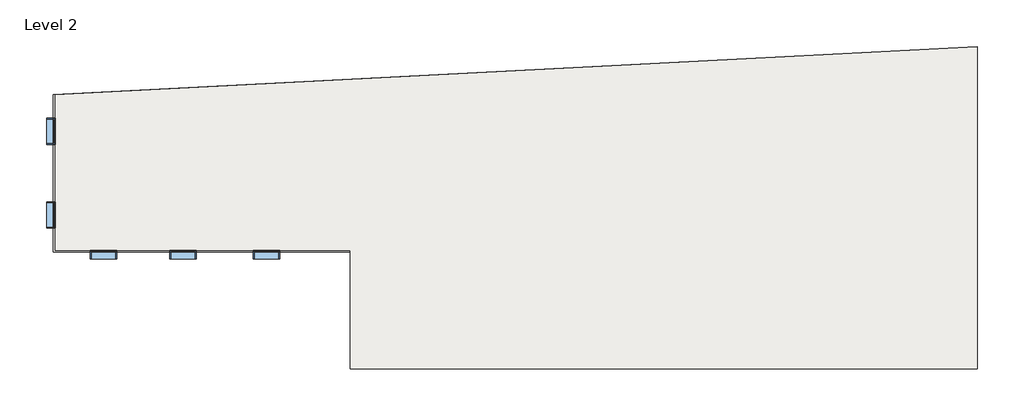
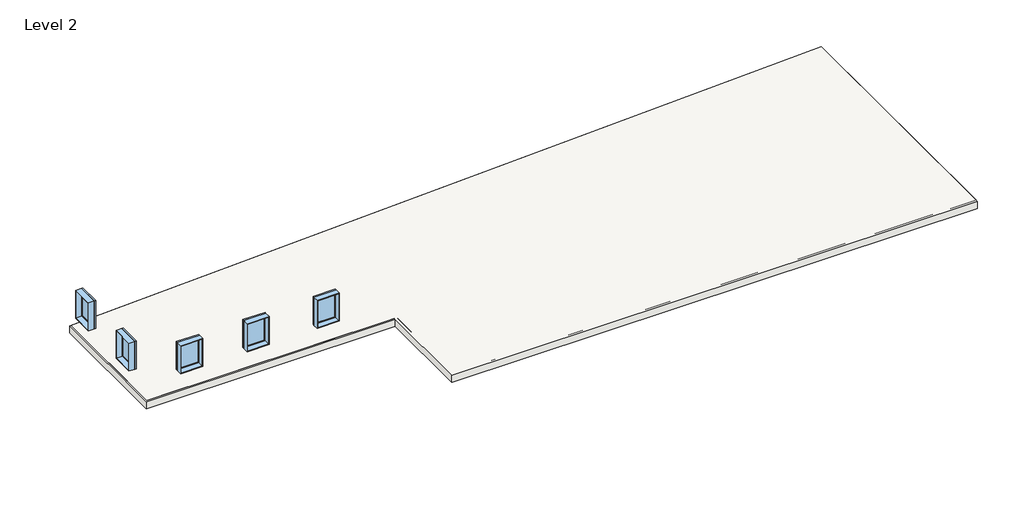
# One storey: 5 windows, 3 slabs.
"""IFC4 building model written with IfcOpenShell, lengths in millimetres."""

from ifc_helpers import new_model, si_unit, frame, origin, place, context, project, spatial, polyline, outline, extrude, transform, mapped, element, save
from components import window_9bb1ed39

model = new_model("IFC4")

# Units and contexts
model_context = context("Model", 3, world=origin())
ifc_project = project(units=[si_unit("LENGTHUNIT", "METRE", prefix="MILLI")], contexts=[model_context])

# Site, building, storey
site = spatial("IfcSite", under=ifc_project)
building = spatial("IfcBuilding", under=site)
storey = spatial("IfcBuildingStorey", under=building, Name="Level 2", Elevation=3048.0)

# Slabs
placement = place(None, origin())
element("IfcSlab", 1, ObjectType="Generic - 12\"", at=placement, inside=storey, context=model_context, shape_type="SweptSolid", body=[
    extrude(outline(polyline([(-11412.9436041, 14193.4725808), (20494.2188959, 15856.8791566), (20494.2188959, 4686.3138106), (-1197.3811041, 4686.3138106), (-1197.3811041, 8796.3513106), (-11412.9436041, 8796.3513106), (-11412.9436041, 14193.4725808)])), frame((0.0, 0.0, 2743.2), z_axis=(0.0, 0.0, 1.0), x_axis=(1.0, 0.0, 0.0)), (0.0, 0.0, 1.0), 304.8),
])
element("IfcSlab", 2, ObjectType="Generic - 12\"", at=placement, inside=storey, context=model_context, shape_type="SweptSolid", body=[
    extrude(outline(polyline([(-11474.8561041, 14190.2449149), (20494.2188959, 15856.8791566), (20494.2188959, 4787.9138106), (-1095.7811041, 4787.9138106), (-1095.7811041, 8734.4388106), (-11474.8561041, 8734.4388106), (-11474.8561041, 14190.2449149)])), frame((0.0, 0.0, 2743.2), z_axis=(0.0, 0.0, 1.0), x_axis=(1.0, 0.0, 0.0)), (0.0, 0.0, 1.0), 304.8),
])
element("IfcSlab", 3, ObjectType="Generic - 12\"", at=placement, inside=storey, context=model_context, shape_type="SweptSolid", body=[
    extrude(outline(polyline([(-11474.8561041, 14190.2449149), (20494.2188959, 15856.8791566), (20494.2188959, 4787.9138106), (-1095.7811041, 4787.9138106), (-1095.7811041, 8734.4388106), (-11474.8561041, 8734.4388106), (-11474.8561041, 14190.2449149)])), frame((0.0, 0.0, 2743.2), z_axis=(0.0, 0.0, 1.0), x_axis=(1.0, 0.0, 0.0)), (0.0, 0.0, 1.0), 304.8),
])

# Windows
window_shape = window_9bb1ed39(model_context)
element("IfcWindow", 4, ObjectType="Fixed : 36\" x 48\"", at=placement, inside=storey, context=model_context, shape_type="MappedRepresentation", body=[
    mapped(window_shape, transform((-9693.6811041, 8648.7138106, 3048.0), x_axis=(1.0, 0.0, 0.0), y_axis=(0.0, 1.0, 0.0), z_axis=(0.0, 0.0, 1.0))),
])
element("IfcWindow", 5, ObjectType="Fixed : 36\" x 48\"", at=placement, inside=storey, context=model_context, shape_type="MappedRepresentation", body=[
    mapped(window_shape, transform((-6950.4811041, 8648.7138106, 3048.0), x_axis=(1.0, 0.0, 0.0), y_axis=(0.0, 1.0, 0.0), z_axis=(0.0, 0.0, 1.0))),
])
element("IfcWindow", 6, ObjectType="Fixed : 36\" x 48\"", at=placement, inside=storey, context=model_context, shape_type="MappedRepresentation", body=[
    mapped(window_shape, transform((-4054.8811041, 8648.7138106, 3048.0), x_axis=(1.0, 0.0, 0.0), y_axis=(0.0, 1.0, 0.0), z_axis=(0.0, 0.0, 1.0))),
])
element("IfcWindow", 7, ObjectType="Fixed : 36\" x 48\"", at=placement, inside=storey, context=model_context, shape_type="MappedRepresentation", body=[
    mapped(window_shape, transform((-11560.5811041, 12877.8138106, 3048.0), x_axis=(0.0, -1.0, 0.0), y_axis=(1.0, 0.0, 0.0), z_axis=(0.0, 0.0, 1.0))),
])
element("IfcWindow", 8, ObjectType="Fixed : 36\" x 48\"", at=placement, inside=storey, context=model_context, shape_type="MappedRepresentation", body=[
    mapped(window_shape, transform((-11560.5811041, 9982.2138106, 3048.0), x_axis=(0.0, -1.0, 0.0), y_axis=(1.0, 0.0, 0.0), z_axis=(0.0, 0.0, 1.0))),
])

save(model, "model.ifc")
